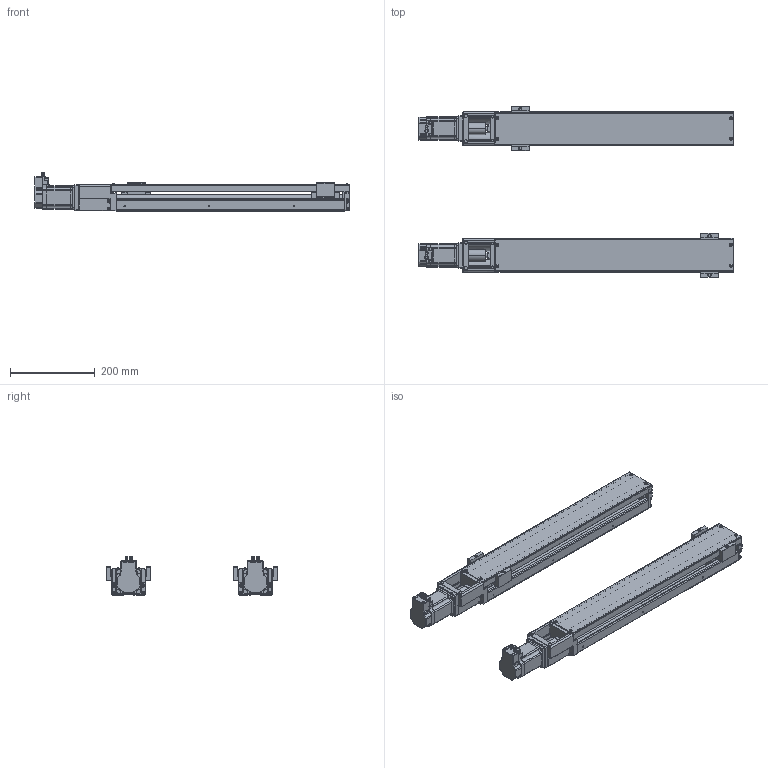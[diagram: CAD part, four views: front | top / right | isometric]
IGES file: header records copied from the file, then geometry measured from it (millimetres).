
Start section: IMSI TurboCAD v14.0
Global section: author: NULL; organization: NULL; date: 20111226.141802; units: millimetre
Bounding box: 745.01 x 404 x 91.47 mm (x, y, z)
Surface area: 928875.9 mm2 (no closed solid volume)
Topology: 0 solids, 0 shells, 4612 faces, 23283 edges, 23220 vertices
Faces by surface type: revolution 2612, extrusion 1840, bspline 160
